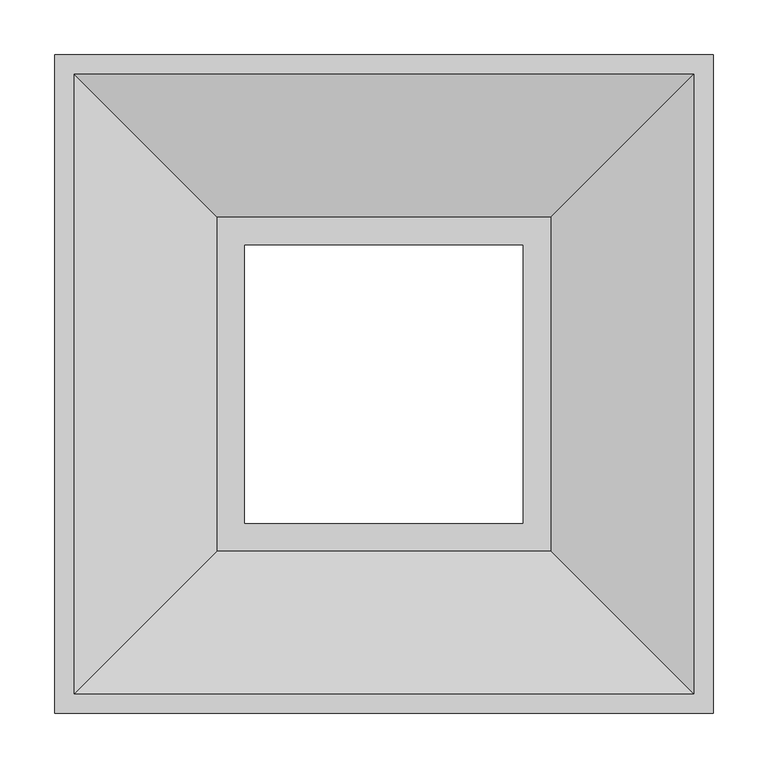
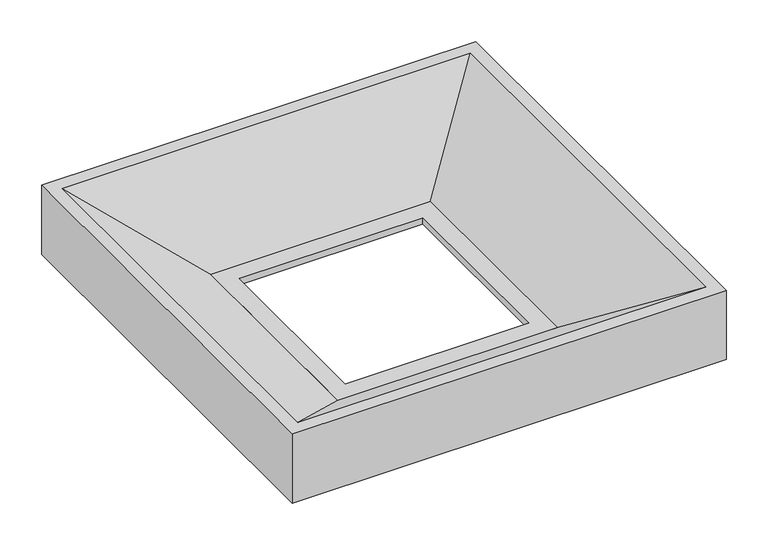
"""IFC4 building model written with IfcOpenShell, lengths in millimetres: proxy geometry, Turf_Pantheon Tile : Pantheon A."""

from ifc_helpers import new_model, si_unit, origin, origin_with_axes, place, context, project, spatial, polyline, outline, extrude, faceted_brep, source, transform, mapped, element, save


def specialty_equipment_52b60a44(model_context):
    return source(origin(), model_context, "Body", "SolidModel", [
        extrude(outline(polyline([(196.05625, -495.3), (-108.74375, -495.3), (-108.74375, -190.5), (196.05625, -190.5), (196.05625, -495.3)]), holes=[polyline([(170.65625, -469.9), (170.65625, -215.9), (-83.34375, -215.9), (-83.34375, -469.9), (170.65625, -469.9)])]), origin_with_axes(), (0.0, 0.0, 1.0), 9.0289063),
        faceted_brep([(196.05625, -495.3, 9.0289062), (326.5289063, -625.7726563, 101.6), (326.5289063, -60.0273438, 101.6), (196.05625, -190.5, 9.0289062), (-239.2164062, -60.0273438, 101.6), (-108.74375, -190.5, 9.0289062), (-239.2164062, -625.7726563, 101.6), (-108.74375, -495.3, 9.0289062), (344.4875, -42.06875, 101.6), (-257.175, -42.06875, 101.6), (-257.175, -643.73125, 101.6), (344.4875, -643.73125, 101.6), (344.4875, -42.06875, 0.0), (344.4875, -643.73125, 0.0), (-257.175, -643.73125, 0.0), (-257.175, -42.06875, 0.0), (196.05625, -495.3, 0.0), (196.05625, -190.5, 0.0), (-108.74375, -190.5, 0.0), (-108.74375, -495.3, 0.0)], [[[0, 1, 2, 3]], [[3, 2, 4, 5]], [[5, 4, 6, 7]], [[1, 0, 7, 6]], [[8, 9, 10, 11], [2, 1, 6, 4]], [[12, 13, 14, 15], [16, 17, 18, 19]], [[9, 8, 12, 15]], [[10, 9, 15, 14]], [[11, 10, 14, 13]], [[8, 11, 13, 12]], [[3, 17, 16, 0]], [[17, 3, 5, 18]], [[18, 5, 7, 19]], [[0, 16, 19, 7]]]),
    ])


if __name__ == "__main__":
    model = new_model("IFC4")
    model_context = context("Model", 3, world=origin())
    ifc_project = project(units=[si_unit("LENGTHUNIT", "METRE", prefix="MILLI")], contexts=[model_context])
    site = spatial("IfcSite", under=ifc_project)
    building = spatial("IfcBuilding", under=site)
    placement = place(None, origin())
    specialty_equipment_shape = specialty_equipment_52b60a44(model_context)
    element("IfcBuildingElementProxy", 1, Name="Turf_Pantheon Tile : Pantheon A", ObjectType="Turf_Pantheon Tile : Pantheon A", at=placement, inside=building, context=model_context, shape_type="MappedRepresentation", body=[
        mapped(specialty_equipment_shape, transform((0.0, 0.0, 0.0), x_axis=(1.0, 0.0, 0.0), y_axis=(0.0, 1.0, 0.0), z_axis=(0.0, 0.0, 1.0))),
    ])
    save(model, "model.ifc")
